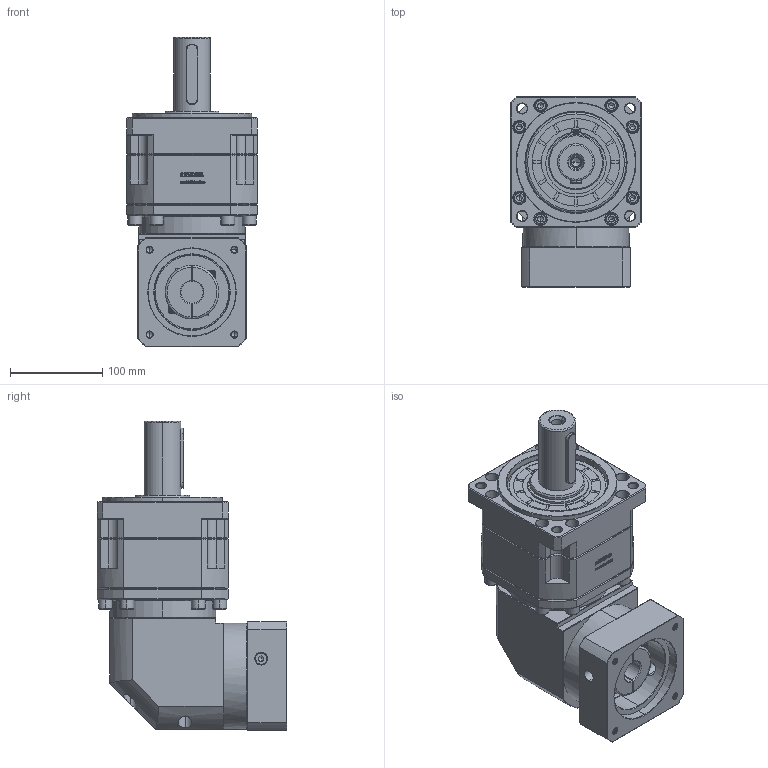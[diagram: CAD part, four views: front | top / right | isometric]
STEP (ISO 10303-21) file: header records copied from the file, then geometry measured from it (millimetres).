
FILE_DESCRIPTION (( 'STEP AP214' ), '1' );
FILE_NAME ('ZBR142A-D40-L2-24-95-130-M8.step', '2023-03-20T04:12:01', ( '' ), ( '' ), 'SwSTEP 2.0', 'SolidWorks 2016', '' );
FILE_SCHEMA (( 'AUTOMOTIVE_DESIGN' ));
Length unit declared in the file: millimetre
Products named in the file (1): ZBR142A-D40-L2-24-95-130-M8
Bounding box: 142 x 205.9 x 335.2 mm (x, y, z)
Volume: 4392186.5 mm3; surface area: 317319.1 mm2
Topology: 6 solids, 6 shells, 3191 faces, 8423 edges, 5400 vertices
Faces by surface type: plane 1652, bspline 592, cylinder 502, cone 399, torus 46
Entity records: 170805 total; most frequent: CARTESIAN_POINT 61426, ORIENTED_EDGE 16738, DIRECTION 13105, EDGE_CURVE 8369, LINE 5591, VECTOR 5591, VERTEX_POINT 5400, AXIS2_PLACEMENT_3D 3757
